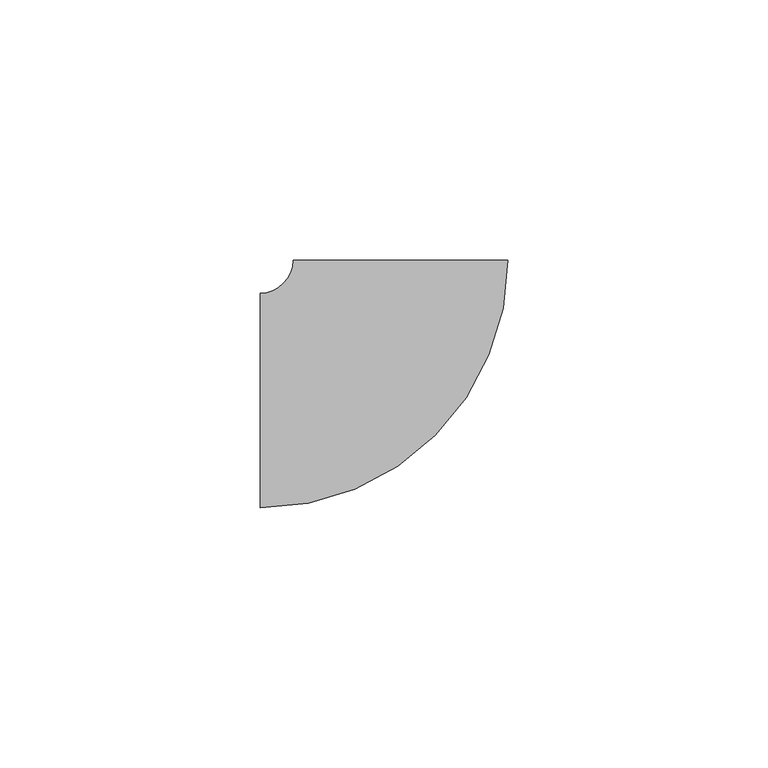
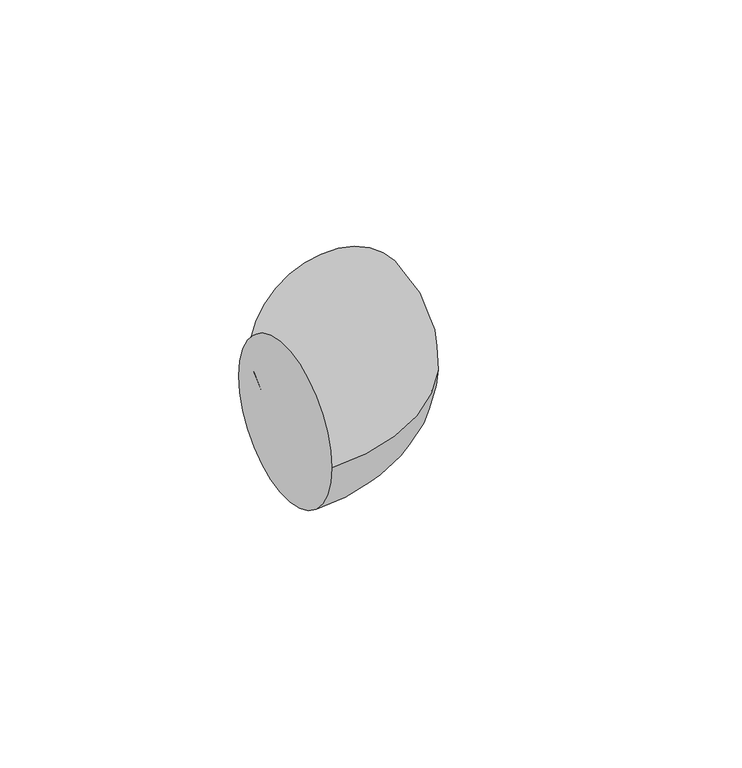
"""IFC4 building model written with IfcOpenShell, lengths in millimetres: pipe fitting geometry, M_Codo - Genérico : Estándar."""

from ifc_helpers import new_model, si_unit, point, frame, origin, place, context, project, spatial, circle_curve, ellipse_curve, trimmed, source, transform, mapped, element, save
from ifc_brep_helpers import plane_surface, revolved_surface, advanced_brep


def pipe_fitting_c88cb194(model_context):
    return source(origin(), model_context, "Body", "AdvancedBrep", [
        advanced_brep(
        [(-26.9880907, -20.6375, 0.0), (-26.9880907, 20.6375, 0.0), (20.6369093, 26.9885424, 0.0), (-20.6380907, 26.987639, 0.0)],
        [
            (0, 1, circle_curve(frame((-26.9880907, 0.0, 0.0), z_axis=(-1.0, 0.0, 0.0), x_axis=(0.0, 1.0, 0.0)), 20.6375)),
            (1, 0, circle_curve(frame((-26.9880907, 0.0, 0.0), z_axis=(-1.0, 0.0, 0.0), x_axis=(0.0, 1.0, 0.0)), 20.6375)),
            (2, 3, circle_curve(frame((-0.0005907, 26.9880907, 0.0), z_axis=(-2.1888180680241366e-05, 0.9999999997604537, 0.0), x_axis=(-0.9999999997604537, -2.1888180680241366e-05, 0.0)), 20.6375)),
            (3, 2, circle_curve(frame((-0.0005907, 26.9880907, 0.0), z_axis=(-2.1888180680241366e-05, 0.9999999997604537, 0.0), x_axis=(-0.9999999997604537, -2.1888180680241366e-05, 0.0)), 20.6375)),
            (3, 1, circle_curve(frame((-26.9880907, 26.9875, 0.0), z_axis=(0.0, 0.0, -1.0), x_axis=(0.0, -1.0, 0.0)), 6.35)),
            (0, 2, circle_curve(frame((-26.9880907, 26.9875, 0.0), z_axis=(0.0, 0.0, 1.0), x_axis=(0.0, -1.0, 0.0)), 47.625)),
        ],
        [
            plane_surface(frame((-26.9880907, 0.0, 0.0), z_axis=(-1.0, 0.0, 0.0), x_axis=(0.0, 0.0, 1.0))),
            plane_surface(frame((-0.0005907, 26.9880907, 0.0), z_axis=(-2.1888180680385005e-05, 0.9999999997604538, 0.0), x_axis=(0.0, 0.0, 1.0))),
            revolved_surface(trimmed(ellipse_curve(frame((-26.9880907, 0.0, 0.0), z_axis=(-1.0, 0.0, 0.0), x_axis=(0.0, 1.0, 0.0)), 20.6375, 20.6375), [point((-26.9880907, -20.6375, 0.0))], [point((-26.9880907, 20.6375, 0.0))], True, "CARTESIAN"), (-26.9880907, 26.9875, 0.0), (0.0, 0.0, 1.0)),
            revolved_surface(trimmed(ellipse_curve(frame((-26.9880907, 0.0, 0.0), z_axis=(-1.0, 0.0, 0.0), x_axis=(0.0, 1.0, 0.0)), 20.6375, 20.6375), [point((-26.9880907, 20.6375, 0.0))], [point((-26.9880907, -20.6375, 0.0))], True, "CARTESIAN"), (-26.9880907, 26.9875, 0.0), (0.0, 0.0, 1.0)),
        ],
        [
            (0, [[1, 2]]),
            (1, [[3, 4]]),
            (2, [[5, -1, 6, -4]]),
            (3, [[-6, -2, -5, -3]]),
        ],
    ),
    ])


if __name__ == "__main__":
    model = new_model("IFC4")
    model_context = context("Model", 3, world=origin())
    ifc_project = project(units=[si_unit("LENGTHUNIT", "METRE", prefix="MILLI")], contexts=[model_context])
    site = spatial("IfcSite", under=ifc_project)
    building = spatial("IfcBuilding", under=site)
    placement = place(None, origin())
    pipe_fitting_shape = pipe_fitting_c88cb194(model_context)
    element("IfcPipeFitting", 1, ObjectType="M_Codo - Genérico : Estándar", at=placement, inside=building, context=model_context, shape_type="MappedRepresentation", body=[
        mapped(pipe_fitting_shape, transform((0.0, 0.0, 0.0), x_axis=(1.0, 0.0, 0.0), y_axis=(0.0, 1.0, 0.0), z_axis=(0.0, 0.0, 1.0))),
    ])
    save(model, "model.ifc")
